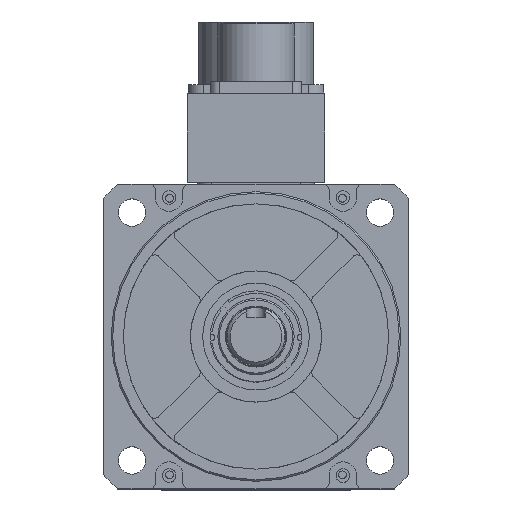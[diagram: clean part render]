
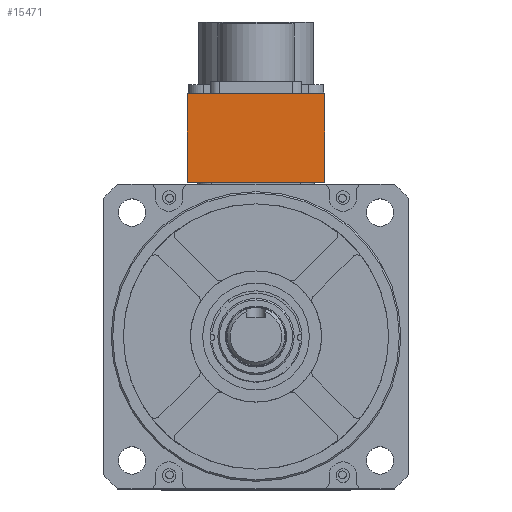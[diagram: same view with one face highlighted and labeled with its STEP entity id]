
A CAD part, top view. The second image highlights one B-rep face of the part: STEP entity #15471.
In plain terms, the highlighted planar face has unit normal (0, 0, 1) as drawn and (-1, 0, 0) by its records, which use the part's own axes.
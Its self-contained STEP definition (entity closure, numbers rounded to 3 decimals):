
#1672 = CARTESIAN_POINT ( 'NONE',  ( -38.5, -22.5, 29. ) ) ;
#3399 = EDGE_CURVE ( 'NONE', #33412, #19848, #7791, .T. ) ;
#4181 = DIRECTION ( 'NONE',  ( 0., 0., -1. ) ) ;
#5222 = VECTOR ( 'NONE', #17049, 1000. ) ;
#5596 = DIRECTION ( 'NONE',  ( 0., 0., -1. ) ) ;
#7791 = LINE ( 'NONE', #38981, #10946 ) ;
#8749 = PLANE ( 'NONE',  #25075 ) ;
#10946 = VECTOR ( 'NONE', #4181, 1000. ) ;
#12737 = LINE ( 'NONE', #23112, #18991 ) ;
#15471 = ADVANCED_FACE ( 'NONE', ( #22973 ), #8749, .F. ) ;
#17049 = DIRECTION ( 'NONE',  ( 0., -1., 0. ) ) ;
#17669 = ORIENTED_EDGE ( 'NONE', *, *, #3399, .T. ) ;
#18991 = VECTOR ( 'NONE', #19722, 1000. ) ;
#19005 = ORIENTED_EDGE ( 'NONE', *, *, #21035, .F. ) ;
#19047 = CARTESIAN_POINT ( 'NONE',  ( -38.5, -22.5, 0. ) ) ;
#19722 = DIRECTION ( 'NONE',  ( 0., -1., 0. ) ) ;
#19848 = VERTEX_POINT ( 'NONE', #38521 ) ;
#20444 = LINE ( 'NONE', #23825, #5222 ) ;
#21035 = EDGE_CURVE ( 'NONE', #39186, #31225, #37858, .T. ) ;
#21739 = VECTOR ( 'NONE', #31067, 1000. ) ;
#22844 = EDGE_CURVE ( 'NONE', #33412, #39186, #12737, .T. ) ;
#22973 = FACE_OUTER_BOUND ( 'NONE', #44104, .T. ) ;
#23112 = CARTESIAN_POINT ( 'NONE',  ( -38.5, -22.5, 29. ) ) ;
#23187 = CARTESIAN_POINT ( 'NONE',  ( -38.5, -22.5, 29. ) ) ;
#23825 = CARTESIAN_POINT ( 'NONE',  ( -38.5, -22.5, 0. ) ) ;
#24046 = CARTESIAN_POINT ( 'NONE',  ( -38.5, -22.5, 29. ) ) ;
#25075 = AXIS2_PLACEMENT_3D ( 'NONE', #23187, #33386, #5596 ) ;
#28913 = ORIENTED_EDGE ( 'NONE', *, *, #22844, .F. ) ;
#31067 = DIRECTION ( 'NONE',  ( 0., 0., -1. ) ) ;
#31225 = VERTEX_POINT ( 'NONE', #19047 ) ;
#31702 = ORIENTED_EDGE ( 'NONE', *, *, #41119, .T. ) ;
#33386 = DIRECTION ( 'NONE',  ( 1., 0., 0. ) ) ;
#33412 = VERTEX_POINT ( 'NONE', #38248 ) ;
#37858 = LINE ( 'NONE', #24046, #21739 ) ;
#38248 = CARTESIAN_POINT ( 'NONE',  ( -38.5, 22.5, 29. ) ) ;
#38521 = CARTESIAN_POINT ( 'NONE',  ( -38.5, 22.5, 0. ) ) ;
#38981 = CARTESIAN_POINT ( 'NONE',  ( -38.5, 22.5, 29. ) ) ;
#39186 = VERTEX_POINT ( 'NONE', #1672 ) ;
#41119 = EDGE_CURVE ( 'NONE', #19848, #31225, #20444, .T. ) ;
#44104 = EDGE_LOOP ( 'NONE', ( #31702, #19005, #28913, #17669 ) ) ;
